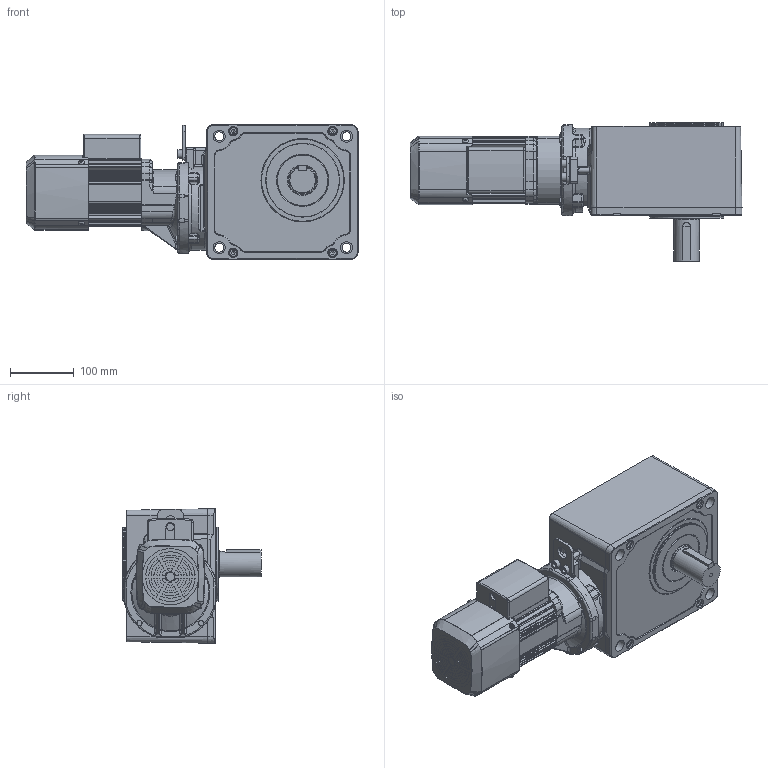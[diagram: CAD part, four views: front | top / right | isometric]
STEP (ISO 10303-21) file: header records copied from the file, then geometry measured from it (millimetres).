
FILE_DESCRIPTION( ( 'Unknown' ), '1' );
FILE_NAME( 'W:/gm/3D-WEB/GM-SHY/完成品/パーツ/完成品/三相/shymbrr_02_300-900.stp', 'Unknown', ( 'Unknown' ), ( 'Unknown' ), 'PSStep 11.0', 'Unknown', ' ' );
FILE_SCHEMA( ( 'AUTOMOTIVE_DESIGN { 1 0 10303 214 1 1 1 1 }' ) );
Length unit declared in the file: millimetre
Products named in the file (3): P265320H10_ 衛偯枆參(0.1,0.2kW 63Fr)
Bounding box: 521.5 x 217 x 211 mm (x, y, z)
Volume: 7999228.8 mm3; surface area: 669895.4 mm2
Topology: 3 solids, 21 shells, 1567 faces, 4059 edges, 2605 vertices
Faces by surface type: plane 649, cylinder 615, cone 129, bspline 84, torus 68, sphere 16, offset 6
Full cylindrical faces by diameter (mm): 3.3 x4, 4 x4, 4.134 x8, 4.5 x8, 4.8 x4, 4.917 x1, 6.2 x1, 6.647 x6, 8 x8, 8.5 x2, 8.8 x4, 10 x2, 12 x2, 13 x6, 13.835 x4, 14 x1, 15 x5, 16 x1, 19 x4, 20 x1, 40 x1, 42 x1, 42.1 x1, 55 x1, 65 x2, 70 x1, 72.529 x1, 80 x3, 88 x1, 88.4 x1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
Entity records: 72067 total; most frequent: CARTESIAN_POINT 22410, DIRECTION 7807, ORIENTED_EDGE 7562, EDGE_CURVE 3781, AXIS2_PLACEMENT_3D 3027, VERTEX_POINT 2528, EDGE_LOOP 1848, LINE 1753
